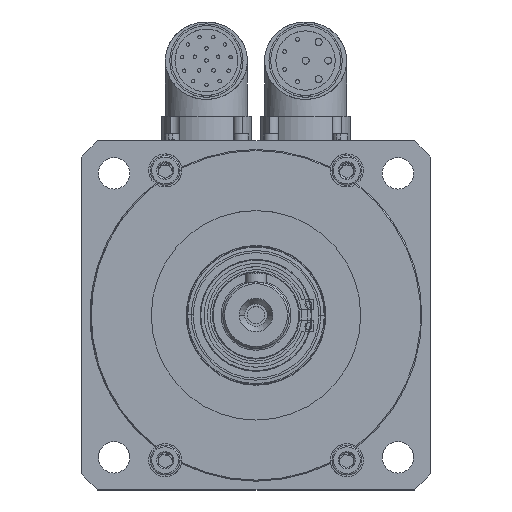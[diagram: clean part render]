
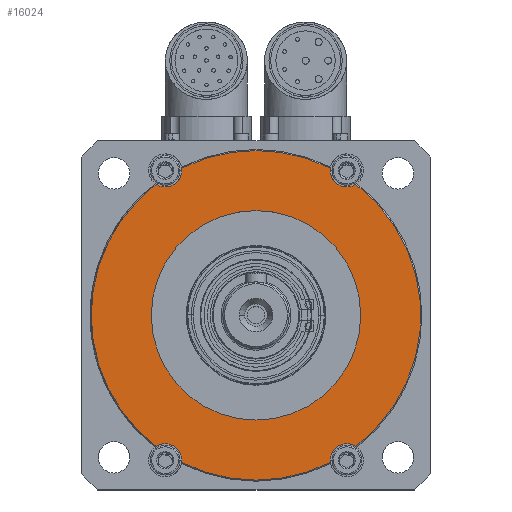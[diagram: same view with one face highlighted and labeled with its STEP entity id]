
A CAD part, top view. The second image highlights one B-rep face of the part: STEP entity #16024.
In plain terms, the highlighted planar face has unit normal (0, 0, 1).
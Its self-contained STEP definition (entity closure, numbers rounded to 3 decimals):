
#271 = CIRCLE ( 'NONE', #558, 30. ) ;
#272 = CIRCLE ( 'NONE', #557, 47.2 ) ;
#282 = CIRCLE ( 'NONE', #569, 47.2 ) ;
#478 = EDGE_CURVE ( 'NONE', #11306, #15406, #271, .T. ) ;
#479 = EDGE_CURVE ( 'NONE', #15346, #11083, #272, .T. ) ;
#497 = EDGE_CURVE ( 'NONE', #15349, #15401, #282, .T. ) ;
#539 = CIRCLE ( 'NONE', #609, 4.75 ) ;
#557 = AXIS2_PLACEMENT_3D ( 'NONE', #8935, #8949, #8951 ) ;
#558 = AXIS2_PLACEMENT_3D ( 'NONE', #8929, #8964, #8954 ) ;
#569 = AXIS2_PLACEMENT_3D ( 'NONE', #8871, #8909, #8910 ) ;
#609 = AXIS2_PLACEMENT_3D ( 'NONE', #6848, #6874, #6905 ) ;
#668 = AXIS2_PLACEMENT_3D ( 'NONE', #16449, #16423, #16451 ) ;
#861 = AXIS2_PLACEMENT_3D ( 'NONE', #8766, #11009, #8998 ) ;
#862 = AXIS2_PLACEMENT_3D ( 'NONE', #5968, #5979, #5982 ) ;
#864 = AXIS2_PLACEMENT_3D ( 'NONE', #5985, #6008, #6011 ) ;
#865 = AXIS2_PLACEMENT_3D ( 'NONE', #5994, #6018, #6021 ) ;
#874 = AXIS2_PLACEMENT_3D ( 'NONE', #9075, #9083, #9084 ) ;
#875 = AXIS2_PLACEMENT_3D ( 'NONE', #9088, #9092, #9093 ) ;
#1083 = AXIS2_PLACEMENT_3D ( 'NONE', #11946, #11957, #11959 ) ;
#1111 = AXIS2_PLACEMENT_3D ( 'NONE', #12332, #12334, #12335 ) ;
#1112 = AXIS2_PLACEMENT_3D ( 'NONE', #12309, #12311, #12312 ) ;
#1562 = CIRCLE ( 'NONE', #2499, 4.75 ) ;
#1991 = EDGE_CURVE ( 'NONE', #11345, #11083, #539, .T. ) ;
#2176 = EDGE_CURVE ( 'NONE', #11286, #11236, #17467, .T. ) ;
#2499 = AXIS2_PLACEMENT_3D ( 'NONE', #17502, #17510, #17511 ) ;
#2506 = AXIS2_PLACEMENT_3D ( 'NONE', #17537, #17545, #17546 ) ;
#3524 = CIRCLE ( 'NONE', #2506, 4.75 ) ;
#4369 = EDGE_CURVE ( 'NONE', #16997, #11234, #1562, .T. ) ;
#4384 = EDGE_CURVE ( 'NONE', #15346, #11340, #3524, .T. ) ;
#5116 = CARTESIAN_POINT ( 'NONE',  ( 21.291, -42.125, 20. ) ) ;
#5267 = CARTESIAN_POINT ( 'NONE',  ( -21.25, 41.5, 20. ) ) ;
#5269 = CARTESIAN_POINT ( 'NONE',  ( 28.617, 37.536, 20. ) ) ;
#5319 = CARTESIAN_POINT ( 'NONE',  ( 21.25, 41.5, 20. ) ) ;
#5339 = CARTESIAN_POINT ( 'NONE',  ( 30., 0., 20. ) ) ;
#5373 = CARTESIAN_POINT ( 'NONE',  ( -21.25, -41.5, 20. ) ) ;
#5378 = CARTESIAN_POINT ( 'NONE',  ( 21.25, -41.5, 20. ) ) ;
#5383 = CARTESIAN_POINT ( 'NONE',  ( -28.617, -37.536, 20. ) ) ;
#5396 = CARTESIAN_POINT ( 'NONE',  ( -47.2, 0., 20. ) ) ;
#5852 = ORIENTED_EDGE ( 'NONE', *, *, #4369, .F. ) ;
#5854 = ORIENTED_EDGE ( 'NONE', *, *, #13114, .T. ) ;
#5857 = ORIENTED_EDGE ( 'NONE', *, *, #16713, .T. ) ;
#5860 = ORIENTED_EDGE ( 'NONE', *, *, #13117, .F. ) ;
#5863 = ORIENTED_EDGE ( 'NONE', *, *, #4384, .F. ) ;
#5866 = ORIENTED_EDGE ( 'NONE', *, *, #479, .T. ) ;
#5869 = ORIENTED_EDGE ( 'NONE', *, *, #1991, .F. ) ;
#5872 = ORIENTED_EDGE ( 'NONE', *, *, #13122, .F. ) ;
#5874 = ORIENTED_EDGE ( 'NONE', *, *, #13135, .T. ) ;
#5878 = ORIENTED_EDGE ( 'NONE', *, *, #2176, .F. ) ;
#5880 = ORIENTED_EDGE ( 'NONE', *, *, #13138, .F. ) ;
#5883 = ORIENTED_EDGE ( 'NONE', *, *, #497, .T. ) ;
#5886 = ORIENTED_EDGE ( 'NONE', *, *, #13118, .F. ) ;
#5889 = ORIENTED_EDGE ( 'NONE', *, *, #478, .F. ) ;
#5893 = ORIENTED_EDGE ( 'NONE', *, *, #16704, .F. ) ;
#5968 = CARTESIAN_POINT ( 'NONE',  ( 0., 0., 20. ) ) ;
#5979 = DIRECTION ( 'NONE',  ( 0., 0., 1. ) ) ;
#5982 = DIRECTION ( 'NONE',  ( 1., 0., 0. ) ) ;
#5985 = CARTESIAN_POINT ( 'NONE',  ( -26., -41.5, 20. ) ) ;
#5994 = CARTESIAN_POINT ( 'NONE',  ( -26., 41.5, 20. ) ) ;
#6008 = DIRECTION ( 'NONE',  ( 0., 0., 1. ) ) ;
#6011 = DIRECTION ( 'NONE',  ( 1., 0., 0. ) ) ;
#6018 = DIRECTION ( 'NONE',  ( 0., 0., 1. ) ) ;
#6021 = DIRECTION ( 'NONE',  ( 1., 0., 0. ) ) ;
#6848 = CARTESIAN_POINT ( 'NONE',  ( 26., -41.5, 20. ) ) ;
#6874 = DIRECTION ( 'NONE',  ( 0., 0., 1. ) ) ;
#6905 = DIRECTION ( 'NONE',  ( 1., 0., 0. ) ) ;
#7919 = CARTESIAN_POINT ( 'NONE',  ( -28.617, 37.536, 20. ) ) ;
#8087 = EDGE_LOOP ( 'NONE', ( #5889, #5893 ) ) ;
#8766 = CARTESIAN_POINT ( 'NONE',  ( 26., -41.5, 20. ) ) ;
#8871 = CARTESIAN_POINT ( 'NONE',  ( 0., 0., 20. ) ) ;
#8909 = DIRECTION ( 'NONE',  ( 0., 0., 1. ) ) ;
#8910 = DIRECTION ( 'NONE',  ( 1., 0., 0. ) ) ;
#8929 = CARTESIAN_POINT ( 'NONE',  ( 0., 0., 20. ) ) ;
#8935 = CARTESIAN_POINT ( 'NONE',  ( 0., 0., 20. ) ) ;
#8949 = DIRECTION ( 'NONE',  ( 0., 0., 1. ) ) ;
#8951 = DIRECTION ( 'NONE',  ( 1., 0., 0. ) ) ;
#8954 = DIRECTION ( 'NONE',  ( 1., 0., 0. ) ) ;
#8964 = DIRECTION ( 'NONE',  ( 0., 0., 1. ) ) ;
#8998 = DIRECTION ( 'NONE',  ( 1., 0., 0. ) ) ;
#9075 = CARTESIAN_POINT ( 'NONE',  ( 0., 0., 20. ) ) ;
#9083 = DIRECTION ( 'NONE',  ( 0., 0., 1. ) ) ;
#9084 = DIRECTION ( 'NONE',  ( 1., 0., 0. ) ) ;
#9088 = CARTESIAN_POINT ( 'NONE',  ( 26., 41.5, 20. ) ) ;
#9092 = DIRECTION ( 'NONE',  ( 0., 0., 1. ) ) ;
#9093 = DIRECTION ( 'NONE',  ( 1., 0., 0. ) ) ;
#11009 = DIRECTION ( 'NONE',  ( 0., 0., 1. ) ) ;
#11083 = VERTEX_POINT ( 'NONE', #5116 ) ;
#11234 = VERTEX_POINT ( 'NONE', #5267 ) ;
#11236 = VERTEX_POINT ( 'NONE', #5269 ) ;
#11286 = VERTEX_POINT ( 'NONE', #5319 ) ;
#11306 = VERTEX_POINT ( 'NONE', #5339 ) ;
#11340 = VERTEX_POINT ( 'NONE', #5373 ) ;
#11345 = VERTEX_POINT ( 'NONE', #5378 ) ;
#11350 = VERTEX_POINT ( 'NONE', #5383 ) ;
#11363 = VERTEX_POINT ( 'NONE', #5396 ) ;
#11432 = CARTESIAN_POINT ( 'NONE',  ( 28.617, -37.536, 20. ) ) ;
#11437 = CARTESIAN_POINT ( 'NONE',  ( -21.291, -42.125, 20. ) ) ;
#11440 = CARTESIAN_POINT ( 'NONE',  ( 21.291, 42.125, 20. ) ) ;
#11513 = CARTESIAN_POINT ( 'NONE',  ( -21.291, 42.125, 20. ) ) ;
#11523 = CARTESIAN_POINT ( 'NONE',  ( -30., 0., 20. ) ) ;
#11940 = PLANE ( 'NONE',  #1083 ) ;
#11946 = CARTESIAN_POINT ( 'NONE',  ( -50., 50., 20. ) ) ;
#11957 = DIRECTION ( 'NONE',  ( 0., 0., 1. ) ) ;
#11959 = DIRECTION ( 'NONE',  ( 1., 0., 0. ) ) ;
#12309 = CARTESIAN_POINT ( 'NONE',  ( 0., 0., 20. ) ) ;
#12311 = DIRECTION ( 'NONE',  ( 0., 0., 1. ) ) ;
#12312 = DIRECTION ( 'NONE',  ( 1., 0., 0. ) ) ;
#12332 = CARTESIAN_POINT ( 'NONE',  ( 0., 0., 20. ) ) ;
#12334 = DIRECTION ( 'NONE',  ( 0., 0., 1. ) ) ;
#12335 = DIRECTION ( 'NONE',  ( 1., 0., 0. ) ) ;
#12639 = CIRCLE ( 'NONE', #862, 47.2 ) ;
#12644 = CIRCLE ( 'NONE', #864, 4.75 ) ;
#12645 = CIRCLE ( 'NONE', #865, 4.75 ) ;
#12651 = CIRCLE ( 'NONE', #861, 4.75 ) ;
#12664 = CIRCLE ( 'NONE', #874, 47.2 ) ;
#12668 = CIRCLE ( 'NONE', #875, 4.75 ) ;
#13114 = EDGE_CURVE ( 'NONE', #16997, #11363, #12639, .T. ) ;
#13117 = EDGE_CURVE ( 'NONE', #11340, #11350, #12644, .T. ) ;
#13118 = EDGE_CURVE ( 'NONE', #11234, #15401, #12645, .T. ) ;
#13122 = EDGE_CURVE ( 'NONE', #15341, #11345, #12651, .T. ) ;
#13135 = EDGE_CURVE ( 'NONE', #15341, #11236, #12664, .T. ) ;
#13138 = EDGE_CURVE ( 'NONE', #15349, #11286, #12668, .T. ) ;
#14092 = EDGE_LOOP ( 'NONE', ( #5852, #5854, #5857, #5860, #5863, #5866, #5869, #5872, #5874, #5878, #5880, #5883, #5886 ) ) ;
#15341 = VERTEX_POINT ( 'NONE', #11432 ) ;
#15346 = VERTEX_POINT ( 'NONE', #11437 ) ;
#15349 = VERTEX_POINT ( 'NONE', #11440 ) ;
#15401 = VERTEX_POINT ( 'NONE', #11513 ) ;
#15406 = VERTEX_POINT ( 'NONE', #11523 ) ;
#15537 = FACE_OUTER_BOUND ( 'NONE', #14092, .T. ) ;
#15543 = FACE_BOUND ( 'NONE', #8087, .T. ) ;
#15576 = CIRCLE ( 'NONE', #1112, 30. ) ;
#15590 = CIRCLE ( 'NONE', #1111, 47.2 ) ;
#16024 = ADVANCED_FACE ( 'NONE', ( #15537, #15543 ), #11940, .T. ) ;
#16423 = DIRECTION ( 'NONE',  ( 0., 0., 1. ) ) ;
#16449 = CARTESIAN_POINT ( 'NONE',  ( 26., 41.5, 20. ) ) ;
#16451 = DIRECTION ( 'NONE',  ( 1., 0., 0. ) ) ;
#16704 = EDGE_CURVE ( 'NONE', #15406, #11306, #15576, .T. ) ;
#16713 = EDGE_CURVE ( 'NONE', #11363, #11350, #15590, .T. ) ;
#16997 = VERTEX_POINT ( 'NONE', #7919 ) ;
#17467 = CIRCLE ( 'NONE', #668, 4.75 ) ;
#17502 = CARTESIAN_POINT ( 'NONE',  ( -26., 41.5, 20. ) ) ;
#17510 = DIRECTION ( 'NONE',  ( 0., 0., 1. ) ) ;
#17511 = DIRECTION ( 'NONE',  ( 1., 0., 0. ) ) ;
#17537 = CARTESIAN_POINT ( 'NONE',  ( -26., -41.5, 20. ) ) ;
#17545 = DIRECTION ( 'NONE',  ( 0., 0., 1. ) ) ;
#17546 = DIRECTION ( 'NONE',  ( 1., 0., 0. ) ) ;
